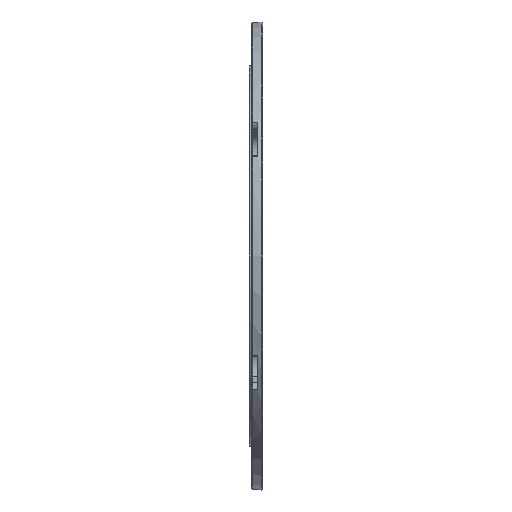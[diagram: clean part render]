
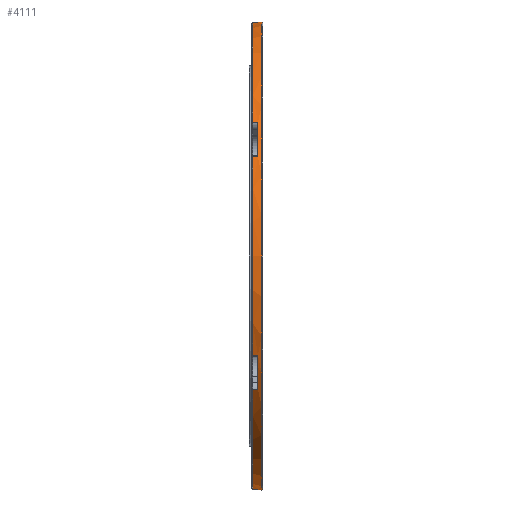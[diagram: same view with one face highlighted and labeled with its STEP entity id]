
A CAD part, left-side view. The second image highlights one B-rep face of the part: STEP entity #4111.
In plain terms, the highlighted cylindrical face has radius 48 mm (diameter 96 mm), a partial arc.
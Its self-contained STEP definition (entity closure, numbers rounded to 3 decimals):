
#1 = DIRECTION ( 'NONE',  ( 0., 1., 0. ) ) ;
#72 = EDGE_CURVE ( 'NONE', #1205, #980, #3589, .T. ) ;
#176 = VERTEX_POINT ( 'NONE', #5491 ) ;
#190 = ORIENTED_EDGE ( 'NONE', *, *, #2243, .T. ) ;
#212 = ORIENTED_EDGE ( 'NONE', *, *, #72, .F. ) ;
#285 = CARTESIAN_POINT ( 'NONE',  ( 0., 2., 0. ) ) ;
#297 = CARTESIAN_POINT ( 'NONE',  ( -4.082, 0.95, -47.826 ) ) ;
#310 = EDGE_CURVE ( 'NONE', #176, #706, #784, .T. ) ;
#378 = CARTESIAN_POINT ( 'NONE',  ( 0., 2.2, -48. ) ) ;
#449 = ORIENTED_EDGE ( 'NONE', *, *, #2951, .T. ) ;
#457 = CARTESIAN_POINT ( 'NONE',  ( -4.082, 2., 47.826 ) ) ;
#553 = CARTESIAN_POINT ( 'NONE',  ( 0., 0.95, 48. ) ) ;
#571 = VERTEX_POINT ( 'NONE', #5213 ) ;
#596 = AXIS2_PLACEMENT_3D ( 'NONE', #4662, #768, #4266 ) ;
#649 = ORIENTED_EDGE ( 'NONE', *, *, #1280, .T. ) ;
#681 = ORIENTED_EDGE ( 'NONE', *, *, #5464, .T. ) ;
#706 = VERTEX_POINT ( 'NONE', #4920 ) ;
#723 = DIRECTION ( 'NONE',  ( 0., 1., 0. ) ) ;
#768 = DIRECTION ( 'NONE',  ( 0., 1., 0. ) ) ;
#784 = CIRCLE ( 'NONE', #3974, 48. ) ;
#803 = ORIENTED_EDGE ( 'NONE', *, *, #5630, .F. ) ;
#851 = EDGE_CURVE ( 'NONE', #2147, #4204, #3477, .T. ) ;
#922 = DIRECTION ( 'NONE',  ( 0., 0., 1. ) ) ;
#961 = VECTOR ( 'NONE', #3420, 1000. ) ;
#980 = VERTEX_POINT ( 'NONE', #1877 ) ;
#1104 = VERTEX_POINT ( 'NONE', #2298 ) ;
#1129 = VECTOR ( 'NONE', #1, 1000. ) ;
#1173 = DIRECTION ( 'NONE',  ( 0., 0., 1. ) ) ;
#1205 = VERTEX_POINT ( 'NONE', #5533 ) ;
#1209 = CARTESIAN_POINT ( 'NONE',  ( 0., 0.2, -48. ) ) ;
#1280 = EDGE_CURVE ( 'NONE', #1104, #2966, #4556, .T. ) ;
#1282 = DIRECTION ( 'NONE',  ( 0., 1., 0. ) ) ;
#1295 = AXIS2_PLACEMENT_3D ( 'NONE', #2991, #3841, #3440 ) ;
#1386 = DIRECTION ( 'NONE',  ( 0., 0., 1. ) ) ;
#1423 = VERTEX_POINT ( 'NONE', #457 ) ;
#1505 = CARTESIAN_POINT ( 'NONE',  ( -43.46, 2., -20.378 ) ) ;
#1542 = CYLINDRICAL_SURFACE ( 'NONE', #4172, 48. ) ;
#1546 = EDGE_CURVE ( 'NONE', #980, #4425, #2971, .T. ) ;
#1614 = CARTESIAN_POINT ( 'NONE',  ( 0., 0.95, 0. ) ) ;
#1647 = DIRECTION ( 'NONE',  ( 0., -1., 0. ) ) ;
#1650 = ORIENTED_EDGE ( 'NONE', *, *, #5496, .T. ) ;
#1708 = LINE ( 'NONE', #3038, #3935 ) ;
#1731 = ORIENTED_EDGE ( 'NONE', *, *, #851, .T. ) ;
#1861 = EDGE_CURVE ( 'NONE', #5301, #4000, #3844, .T. ) ;
#1877 = CARTESIAN_POINT ( 'NONE',  ( -39.378, 0.95, 27.448 ) ) ;
#1901 = EDGE_CURVE ( 'NONE', #176, #2311, #3961, .T. ) ;
#1927 = ORIENTED_EDGE ( 'NONE', *, *, #3456, .F. ) ;
#2026 = VECTOR ( 'NONE', #723, 1000. ) ;
#2081 = LINE ( 'NONE', #297, #2690 ) ;
#2087 = DIRECTION ( 'NONE',  ( 0., 0., 1. ) ) ;
#2106 = ORIENTED_EDGE ( 'NONE', *, *, #1901, .T. ) ;
#2147 = VERTEX_POINT ( 'NONE', #3867 ) ;
#2154 = CARTESIAN_POINT ( 'NONE',  ( 0., 0.2, 0. ) ) ;
#2156 = VECTOR ( 'NONE', #1647, 1000. ) ;
#2243 = EDGE_CURVE ( 'NONE', #1205, #1104, #1708, .T. ) ;
#2298 = CARTESIAN_POINT ( 'NONE',  ( -43.46, 2., 20.378 ) ) ;
#2311 = VERTEX_POINT ( 'NONE', #4698 ) ;
#2409 = DIRECTION ( 'NONE',  ( 0., 1., 0. ) ) ;
#2444 = DIRECTION ( 'NONE',  ( 0., -1., 0. ) ) ;
#2451 = DIRECTION ( 'NONE',  ( 0., -1., 0. ) ) ;
#2471 = LINE ( 'NONE', #4181, #5225 ) ;
#2492 = CIRCLE ( 'NONE', #5413, 48. ) ;
#2586 = AXIS2_PLACEMENT_3D ( 'NONE', #285, #2444, #2087 ) ;
#2589 = AXIS2_PLACEMENT_3D ( 'NONE', #5112, #2409, #3373 ) ;
#2636 = CARTESIAN_POINT ( 'NONE',  ( 0., 2., 0. ) ) ;
#2647 = ORIENTED_EDGE ( 'NONE', *, *, #1546, .F. ) ;
#2686 = CARTESIAN_POINT ( 'NONE',  ( -4.082, 2., -47.826 ) ) ;
#2690 = VECTOR ( 'NONE', #3338, 1000. ) ;
#2765 = VERTEX_POINT ( 'NONE', #3605 ) ;
#2809 = DIRECTION ( 'NONE',  ( 0., -1., 0. ) ) ;
#2911 = DIRECTION ( 'NONE',  ( 0., 1., 0. ) ) ;
#2951 = EDGE_CURVE ( 'NONE', #5301, #1423, #2471, .T. ) ;
#2966 = VERTEX_POINT ( 'NONE', #1505 ) ;
#2971 = LINE ( 'NONE', #4730, #2026 ) ;
#2991 = CARTESIAN_POINT ( 'NONE',  ( 0., 0.95, 0. ) ) ;
#3016 = LINE ( 'NONE', #4773, #1129 ) ;
#3038 = CARTESIAN_POINT ( 'NONE',  ( -43.46, 0.95, 20.378 ) ) ;
#3042 = DIRECTION ( 'NONE',  ( 0., 1., 0. ) ) ;
#3083 = ORIENTED_EDGE ( 'NONE', *, *, #3423, .F. ) ;
#3283 = CARTESIAN_POINT ( 'NONE',  ( -39.378, 2., 27.448 ) ) ;
#3288 = CARTESIAN_POINT ( 'NONE',  ( 0., 2.2, 0. ) ) ;
#3309 = AXIS2_PLACEMENT_3D ( 'NONE', #5142, #2451, #1173 ) ;
#3338 = DIRECTION ( 'NONE',  ( 0., 1., 0. ) ) ;
#3355 = ORIENTED_EDGE ( 'NONE', *, *, #5625, .T. ) ;
#3373 = DIRECTION ( 'NONE',  ( 0., 0., 1. ) ) ;
#3420 = DIRECTION ( 'NONE',  ( 0., -1., 0. ) ) ;
#3423 = EDGE_CURVE ( 'NONE', #571, #3515, #2081, .T. ) ;
#3440 = DIRECTION ( 'NONE',  ( 0., 0., -1. ) ) ;
#3456 = EDGE_CURVE ( 'NONE', #4000, #2765, #3857, .T. ) ;
#3462 = CARTESIAN_POINT ( 'NONE',  ( -39.378, 0.95, -27.448 ) ) ;
#3477 = LINE ( 'NONE', #378, #2156 ) ;
#3487 = CIRCLE ( 'NONE', #3309, 48. ) ;
#3515 = VERTEX_POINT ( 'NONE', #2686 ) ;
#3589 = CIRCLE ( 'NONE', #596, 48. ) ;
#3605 = CARTESIAN_POINT ( 'NONE',  ( 0., 0.2, 48. ) ) ;
#3841 = DIRECTION ( 'NONE',  ( 0., 1., 0. ) ) ;
#3844 = CIRCLE ( 'NONE', #1295, 48. ) ;
#3857 = LINE ( 'NONE', #4760, #961 ) ;
#3867 = CARTESIAN_POINT ( 'NONE',  ( 0., 0.95, -48. ) ) ;
#3935 = VECTOR ( 'NONE', #4795, 1000. ) ;
#3961 = LINE ( 'NONE', #3462, #4231 ) ;
#3974 = AXIS2_PLACEMENT_3D ( 'NONE', #1614, #2911, #4664 ) ;
#4000 = VERTEX_POINT ( 'NONE', #553 ) ;
#4007 = ORIENTED_EDGE ( 'NONE', *, *, #310, .F. ) ;
#4048 = EDGE_LOOP ( 'NONE', ( #1927, #4577, #449, #3355, #2647, #212, #190, #649, #4290, #4007, #2106, #681, #3083, #803, #1731, #1650 ) ) ;
#4111 = ADVANCED_FACE ( 'NONE', ( #4165 ), #1542, .T. ) ;
#4165 = FACE_OUTER_BOUND ( 'NONE', #4048, .T. ) ;
#4172 = AXIS2_PLACEMENT_3D ( 'NONE', #3288, #2809, #4573 ) ;
#4181 = CARTESIAN_POINT ( 'NONE',  ( -4.082, 0.95, 47.826 ) ) ;
#4204 = VERTEX_POINT ( 'NONE', #1209 ) ;
#4231 = VECTOR ( 'NONE', #3042, 1000. ) ;
#4266 = DIRECTION ( 'NONE',  ( 0.866, 0., -0.5 ) ) ;
#4290 = ORIENTED_EDGE ( 'NONE', *, *, #5540, .F. ) ;
#4425 = VERTEX_POINT ( 'NONE', #3283 ) ;
#4556 = CIRCLE ( 'NONE', #4830, 48. ) ;
#4573 = DIRECTION ( 'NONE',  ( 0., 0., -1. ) ) ;
#4577 = ORIENTED_EDGE ( 'NONE', *, *, #1861, .F. ) ;
#4590 = CARTESIAN_POINT ( 'NONE',  ( -4.082, 0.95, 47.826 ) ) ;
#4662 = CARTESIAN_POINT ( 'NONE',  ( 0., 0.95, 0. ) ) ;
#4664 = DIRECTION ( 'NONE',  ( 0.866, 0., 0.5 ) ) ;
#4698 = CARTESIAN_POINT ( 'NONE',  ( -39.378, 2., -27.448 ) ) ;
#4719 = DIRECTION ( 'NONE',  ( 0., -1., 0. ) ) ;
#4730 = CARTESIAN_POINT ( 'NONE',  ( -39.378, 0.95, 27.448 ) ) ;
#4760 = CARTESIAN_POINT ( 'NONE',  ( 0., 2.2, 48. ) ) ;
#4773 = CARTESIAN_POINT ( 'NONE',  ( -43.46, 0.95, -20.378 ) ) ;
#4795 = DIRECTION ( 'NONE',  ( 0., 1., 0. ) ) ;
#4830 = AXIS2_PLACEMENT_3D ( 'NONE', #2636, #4719, #922 ) ;
#4920 = CARTESIAN_POINT ( 'NONE',  ( -43.46, 0.95, -20.378 ) ) ;
#4989 = CIRCLE ( 'NONE', #2589, 48. ) ;
#5069 = CIRCLE ( 'NONE', #2586, 48. ) ;
#5112 = CARTESIAN_POINT ( 'NONE',  ( 0., 0.95, 0. ) ) ;
#5142 = CARTESIAN_POINT ( 'NONE',  ( 0., 2., 0. ) ) ;
#5213 = CARTESIAN_POINT ( 'NONE',  ( -4.082, 0.95, -47.826 ) ) ;
#5225 = VECTOR ( 'NONE', #5477, 1000. ) ;
#5301 = VERTEX_POINT ( 'NONE', #4590 ) ;
#5413 = AXIS2_PLACEMENT_3D ( 'NONE', #2154, #1282, #1386 ) ;
#5464 = EDGE_CURVE ( 'NONE', #2311, #3515, #3487, .T. ) ;
#5477 = DIRECTION ( 'NONE',  ( 0., 1., 0. ) ) ;
#5491 = CARTESIAN_POINT ( 'NONE',  ( -39.378, 0.95, -27.448 ) ) ;
#5496 = EDGE_CURVE ( 'NONE', #4204, #2765, #2492, .T. ) ;
#5533 = CARTESIAN_POINT ( 'NONE',  ( -43.46, 0.95, 20.378 ) ) ;
#5540 = EDGE_CURVE ( 'NONE', #706, #2966, #3016, .T. ) ;
#5625 = EDGE_CURVE ( 'NONE', #1423, #4425, #5069, .T. ) ;
#5630 = EDGE_CURVE ( 'NONE', #2147, #571, #4989, .T. ) ;
